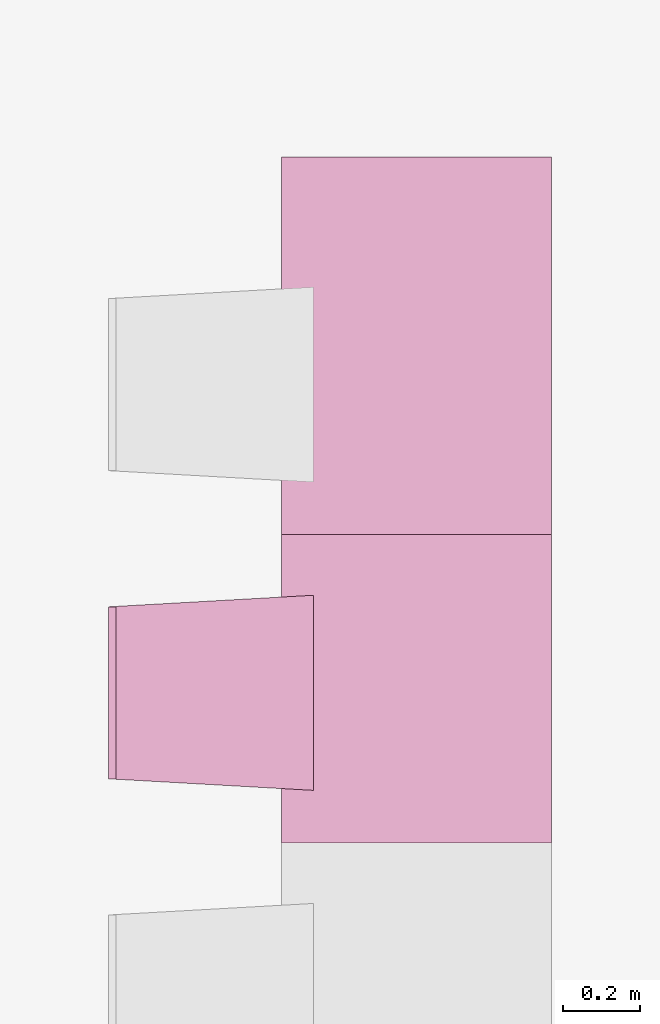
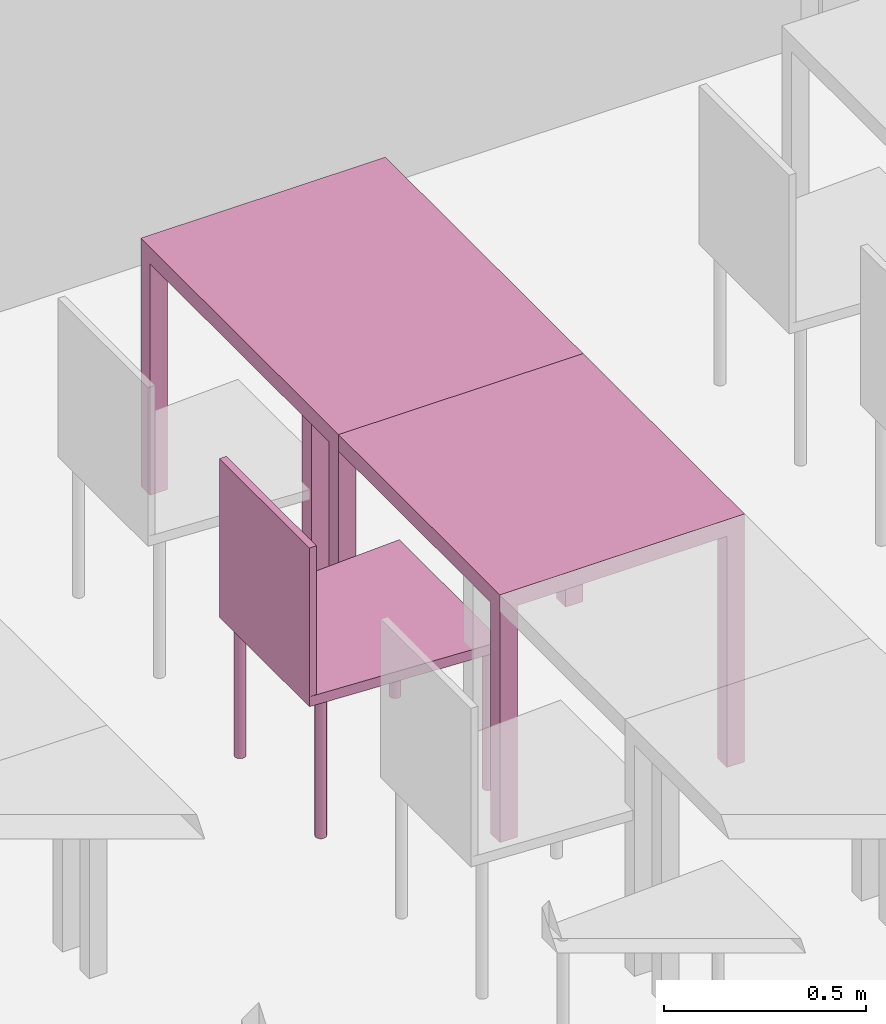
"""IFC4 building model written with IfcOpenShell, lengths in metres."""

from ifc_helpers import new_model, entity, si_unit, converted_unit, derived_unit, frame, origin, place, context, subcontext, project, spatial, faceted_brep, element, save


model = new_model("IFC4")

# Units and contexts
model_context = context("Model", 3, precision=1e-05, world=origin())
body_context = subcontext(model_context, "Body", "Model", "MODEL_VIEW")
ifc_project = project(units=[si_unit("LENGTHUNIT", "METRE"), si_unit("AREAUNIT", "SQUARE_METRE"), si_unit("VOLUMEUNIT", "CUBIC_METRE"), si_unit("MASSUNIT", "GRAM", prefix="KILO"), converted_unit("PLANEANGLEUNIT", "DEGREE", entity("IfcPlaneAngleMeasure", 0.0174532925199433), si_unit("PLANEANGLEUNIT", "RADIAN"), dimensions=[0, 0, 0, 0, 0, 0, 0]), derived_unit("THERMALTRANSMITTANCEUNIT", [(si_unit("POWERUNIT", "WATT"), 1), (si_unit("THERMODYNAMICTEMPERATUREUNIT", "KELVIN"), -1), (si_unit("LENGTHUNIT", "METRE"), -2)]), derived_unit("VOLUMETRICFLOWRATEUNIT", [(si_unit("LENGTHUNIT", "METRE"), 3), (converted_unit("TIMEUNIT", "hour", entity("IfcTimeMeasure", 3600.0), si_unit("TIMEUNIT", "SECOND"), dimensions=[0, 0, 1, 0, 0, 0, 0]), -1), (si_unit("LENGTHUNIT", "METRE"), -1)])], contexts=[model_context])

# Building, storeys
building_placement = place(None, origin())
building = spatial("IfcBuilding", under=ifc_project, at=building_placement, Name="HABITATGE PLURIFAMILIAR", CompositionType="ELEMENT")
storey_1_placement = place(building_placement, frame((0.0, 0.0, 3.35)))
storey_1 = spatial("IfcBuildingStorey", under=building, at=storey_1_placement, Name="PLANTA  ALTELL", CompositionType="ELEMENT", Elevation=3.35)
storey_2_placement = place(storey_1_placement, origin())
storey_2 = spatial("IfcBuildingStorey", under=storey_1, at=storey_2_placement, Name="NOU", CompositionType="PARTIAL")

# Furniture
furniture_1_placement = place(storey_2_placement, frame((412.336020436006, 15.6434480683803, 0.0)))
element("IfcFurniture", 1, at=furniture_1_placement, inside=storey_2, Name="Taula 80X70_PA", context=body_context, shape_type="Brep", body=[
    faceted_brep([(0.0, 0.0464285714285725, 0.0), (0.0, 0.0, 0.0), (0.0500000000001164, 0.0, 0.0), (0.0500000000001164, 0.0464285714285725, 0.0), (0.0500000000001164, 0.0464285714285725, 0.7), (0.0500000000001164, 0.0, 0.7), (0.0, 0.0, 0.7), (0.0, 0.0464285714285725, 0.7)], [[[0, 1, 2, 3]], [[4, 5, 6, 7]], [[3, 4, 7, 0]], [[2, 5, 4, 3]], [[1, 6, 5, 2]], [[0, 7, 6, 1]]], orient=[[False], [False], [False], [False], [False], [False]]),
    faceted_brep([(0.0, 0.98, 0.7), (0.0, 0.0, 0.7), (0.700069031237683, 0.0, 0.7), (0.700069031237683, 0.98, 0.7), (0.700069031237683, 0.98, 0.75), (0.700069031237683, 0.0, 0.75), (0.0, 0.0, 0.75), (0.0, 0.98, 0.75)], [[[0, 1, 2, 3]], [[4, 5, 6, 7]], [[3, 4, 7, 0]], [[2, 5, 4, 3]], [[1, 6, 5, 2]], [[0, 7, 6, 1]]], orient=[[False], [False], [False], [False], [False], [False]]),
    faceted_brep([(0.0, 0.98, 0.0), (0.0, 0.933571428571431, 0.0), (0.05, 0.933571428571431, 0.0), (0.05, 0.98, 0.0), (0.05, 0.98, 0.7), (0.05, 0.933571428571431, 0.7), (0.0, 0.933571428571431, 0.7), (0.0, 0.98, 0.7)], [[[0, 1, 2, 3]], [[4, 5, 6, 7]], [[3, 4, 7, 0]], [[2, 5, 4, 3]], [[1, 6, 5, 2]], [[0, 7, 6, 1]]], orient=[[False], [False], [False], [False], [False], [False]]),
    faceted_brep([(0.650069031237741, 0.98, 0.0), (0.650069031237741, 0.933571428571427, 0.0), (0.700069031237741, 0.933571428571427, 0.0), (0.700069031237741, 0.98, 0.0), (0.700069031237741, 0.98, 0.7), (0.700069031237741, 0.933571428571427, 0.7), (0.650069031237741, 0.933571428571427, 0.7), (0.650069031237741, 0.98, 0.7)], [[[0, 1, 2, 3]], [[4, 5, 6, 7]], [[3, 4, 7, 0]], [[2, 5, 4, 3]], [[1, 6, 5, 2]], [[0, 7, 6, 1]]], orient=[[False], [False], [False], [False], [False], [False]]),
    faceted_brep([(0.650069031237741, 0.0464285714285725, 0.0), (0.650069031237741, 0.0, 0.0), (0.700069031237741, 0.0, 0.0), (0.700069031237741, 0.0464285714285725, 0.0), (0.700069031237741, 0.0464285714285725, 0.7), (0.700069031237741, 0.0, 0.7), (0.650069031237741, 0.0, 0.7), (0.650069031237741, 0.0464285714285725, 0.7)], [[[0, 1, 2, 3]], [[4, 5, 6, 7]], [[3, 4, 7, 0]], [[2, 5, 4, 3]], [[1, 6, 5, 2]], [[0, 7, 6, 1]]], orient=[[False], [False], [False], [False], [False], [False]]),
])
furniture_2_placement = place(storey_2_placement, frame((412.336020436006, 14.8434480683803, 0.0)))
element("IfcFurniture", 2, at=furniture_2_placement, inside=storey_2, Name="Taula 80X70_PA", context=body_context, shape_type="Brep", body=[
    faceted_brep([(0.0, 0.0464285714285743, 0.0), (0.0, 0.0, 0.0), (0.0500000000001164, 0.0, 0.0), (0.0500000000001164, 0.0464285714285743, 0.0), (0.0500000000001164, 0.0464285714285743, 0.7), (0.0500000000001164, 0.0, 0.7), (0.0, 0.0, 0.7), (0.0, 0.0464285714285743, 0.7)], [[[0, 1, 2, 3]], [[4, 5, 6, 7]], [[3, 4, 7, 0]], [[2, 5, 4, 3]], [[1, 6, 5, 2]], [[0, 7, 6, 1]]], orient=[[False], [False], [False], [False], [False], [False]]),
    faceted_brep([(0.0, 0.98, 0.7), (0.0, 0.0, 0.7), (0.700069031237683, 0.0, 0.7), (0.700069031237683, 0.98, 0.7), (0.700069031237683, 0.98, 0.75), (0.700069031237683, 0.0, 0.75), (0.0, 0.0, 0.75), (0.0, 0.98, 0.75)], [[[0, 1, 2, 3]], [[4, 5, 6, 7]], [[3, 4, 7, 0]], [[2, 5, 4, 3]], [[1, 6, 5, 2]], [[0, 7, 6, 1]]], orient=[[False], [False], [False], [False], [False], [False]]),
    faceted_brep([(0.0, 0.980000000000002, 0.0), (0.0, 0.933571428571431, 0.0), (0.05, 0.933571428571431, 0.0), (0.05, 0.980000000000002, 0.0), (0.05, 0.980000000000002, 0.7), (0.05, 0.933571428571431, 0.7), (0.0, 0.933571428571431, 0.7), (0.0, 0.980000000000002, 0.7)], [[[0, 1, 2, 3]], [[4, 5, 6, 7]], [[3, 4, 7, 0]], [[2, 5, 4, 3]], [[1, 6, 5, 2]], [[0, 7, 6, 1]]], orient=[[False], [False], [False], [False], [False], [False]]),
    faceted_brep([(0.650069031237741, 0.98, 0.0), (0.650069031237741, 0.933571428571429, 0.0), (0.700069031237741, 0.933571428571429, 0.0), (0.700069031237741, 0.98, 0.0), (0.700069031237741, 0.98, 0.7), (0.700069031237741, 0.933571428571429, 0.7), (0.650069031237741, 0.933571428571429, 0.7), (0.650069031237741, 0.98, 0.7)], [[[0, 1, 2, 3]], [[4, 5, 6, 7]], [[3, 4, 7, 0]], [[2, 5, 4, 3]], [[1, 6, 5, 2]], [[0, 7, 6, 1]]], orient=[[False], [False], [False], [False], [False], [False]]),
    faceted_brep([(0.650069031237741, 0.0464285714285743, 0.0), (0.650069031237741, 0.0, 0.0), (0.700069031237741, 0.0, 0.0), (0.700069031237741, 0.0464285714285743, 0.0), (0.700069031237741, 0.0464285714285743, 0.7), (0.700069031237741, 0.0, 0.7), (0.650069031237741, 0.0, 0.7), (0.650069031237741, 0.0464285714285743, 0.7)], [[[0, 1, 2, 3]], [[4, 5, 6, 7]], [[3, 4, 7, 0]], [[2, 5, 4, 3]], [[1, 6, 5, 2]], [[0, 7, 6, 1]]], orient=[[False], [False], [False], [False], [False], [False]]),
])
furniture_3_placement = place(storey_2_placement, frame((411.886879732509, 14.9796818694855, 0.0499839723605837)))
element("IfcFurniture", 3, at=furniture_3_placement, inside=storey_2, Name="Cadira confident_PA", context=body_context, shape_type="Brep", body=[
    faceted_brep([(0.507575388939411, 0.0391636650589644, 0.0), (0.504980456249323, 0.0389479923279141, 0.0), (0.502462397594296, 0.0382849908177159, 0.0), (0.500097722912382, 0.0371948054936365, 0.0), (0.497958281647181, 0.0357105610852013, 0.0), (0.49610907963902, 0.0338773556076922, 0.0), (0.494606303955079, 0.0317508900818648, 0.0), (0.493495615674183, 0.0293957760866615, 0.0), (0.492810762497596, 0.0268835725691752, 0.0), (0.492572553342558, 0.0242906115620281, 0.0), (0.492788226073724, 0.0216956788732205, 0.0), (0.49345122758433, 0.019177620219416, 0.0), (0.494541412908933, 0.0168129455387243, 0.0), (0.496025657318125, 0.0146735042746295, 0.0), (0.497858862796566, 0.0128243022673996, 0.0), (0.499985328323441, 0.0113215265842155, 0.0), (0.502340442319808, 0.0102108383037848, 0.0), (0.504852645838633, 0.00952598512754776, 0.0), (0.507445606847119, 0.00928777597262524, 0.0), (0.510040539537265, 0.00950344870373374, 0.0), (0.512558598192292, 0.010166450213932, 0.0), (0.514923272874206, 0.0112566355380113, 0.0), (0.517062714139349, 0.0127408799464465, 0.0), (0.51891191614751, 0.0145740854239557, 0.0), (0.520414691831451, 0.0167005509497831, 0.0), (0.521525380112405, 0.0190556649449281, 0.0), (0.522210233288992, 0.0215678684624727, 0.0), (0.522448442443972, 0.024160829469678, 0.0), (0.522232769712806, 0.0267557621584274, 0.0), (0.5215697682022, 0.0292738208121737, 0.0), (0.520479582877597, 0.0316384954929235, 0.0), (0.518995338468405, 0.0337779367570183, 0.0), (0.517162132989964, 0.0356271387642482, 0.0), (0.515035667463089, 0.0371299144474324, 0.0), (0.512680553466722, 0.038240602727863, 0.0), (0.510168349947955, 0.0389254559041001, 0.0), (0.507575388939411, 0.0391636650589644, 0.448281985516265), (0.510168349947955, 0.0389254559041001, 0.448281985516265), (0.512680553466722, 0.038240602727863, 0.448281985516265), (0.515035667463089, 0.0371299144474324, 0.448281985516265), (0.517162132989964, 0.0356271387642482, 0.448281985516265), (0.518995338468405, 0.0337779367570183, 0.448281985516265), (0.520479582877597, 0.0316384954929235, 0.448281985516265), (0.5215697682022, 0.0292738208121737, 0.448281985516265), (0.522232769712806, 0.0267557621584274, 0.448281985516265), (0.522448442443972, 0.024160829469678, 0.448281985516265), (0.522210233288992, 0.0215678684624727, 0.448281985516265), (0.521525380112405, 0.0190556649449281, 0.448281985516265), (0.520414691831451, 0.0167005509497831, 0.448281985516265), (0.51891191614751, 0.0145740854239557, 0.448281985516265), (0.517062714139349, 0.0127408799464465, 0.448281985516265), (0.514923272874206, 0.0112566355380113, 0.448281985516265), (0.512558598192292, 0.010166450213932, 0.448281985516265), (0.510040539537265, 0.00950344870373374, 0.448281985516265), (0.507445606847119, 0.00928777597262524, 0.448281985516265), (0.504852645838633, 0.00952598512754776, 0.448281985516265), (0.502340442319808, 0.0102108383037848, 0.448281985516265), (0.499985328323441, 0.0113215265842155, 0.448281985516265), (0.497858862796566, 0.0128243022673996, 0.448281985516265), (0.496025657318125, 0.0146735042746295, 0.448281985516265), (0.494541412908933, 0.0168129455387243, 0.448281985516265), (0.49345122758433, 0.019177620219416, 0.448281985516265), (0.492788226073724, 0.0216956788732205, 0.448281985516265), (0.492572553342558, 0.0242906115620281, 0.448281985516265), (0.492810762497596, 0.0268835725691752, 0.448281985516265), (0.493495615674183, 0.0293957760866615, 0.448281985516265), (0.494606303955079, 0.0317508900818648, 0.448281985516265), (0.49610907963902, 0.0338773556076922, 0.448281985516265), (0.497958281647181, 0.0357105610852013, 0.448281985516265), (0.500097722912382, 0.0371948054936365, 0.448281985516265), (0.502462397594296, 0.0382849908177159, 0.448281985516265), (0.504980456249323, 0.0389479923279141, 0.448281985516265)], [[[0, 1, 2, 3, 4, 5, 6, 7, 8, 9, 10, 11, 12, 13, 14, 15, 16, 17, 18, 19, 20, 21, 22, 23, 24, 25, 26, 27, 28, 29, 30, 31, 32, 33, 34, 35]], [[36, 37, 38, 39, 40, 41, 42, 43, 44, 45, 46, 47, 48, 49, 50, 51, 52, 53, 54, 55, 56, 57, 58, 59, 60, 61, 62, 63, 64, 65, 66, 67, 68, 69, 70, 71]], [[1, 0, 36, 71]], [[2, 1, 71, 70]], [[3, 2, 70, 69]], [[4, 3, 69, 68]], [[5, 4, 68, 67]], [[6, 5, 67, 66]], [[7, 6, 66, 65]], [[8, 7, 65, 64]], [[9, 8, 64, 63]], [[10, 9, 63, 62]], [[11, 10, 62, 61]], [[12, 11, 61, 60]], [[13, 12, 60, 59]], [[14, 13, 59, 58]], [[15, 14, 58, 57]], [[16, 15, 57, 56]], [[17, 16, 56, 55]], [[18, 17, 55, 54]], [[19, 18, 54, 53]], [[20, 19, 53, 52]], [[21, 20, 52, 51]], [[22, 21, 51, 50]], [[23, 22, 50, 49]], [[24, 23, 49, 48]], [[25, 24, 48, 47]], [[26, 25, 47, 46]], [[27, 26, 46, 45]], [[28, 27, 45, 44]], [[29, 28, 44, 43]], [[30, 29, 43, 42]], [[31, 30, 42, 41]], [[32, 31, 41, 40]], [[33, 32, 40, 39]], [[34, 33, 39, 38]], [[35, 34, 38, 37]], [[0, 35, 37, 36]]], orient=[[False], [False], [False], [False], [False], [False], [False], [False], [False], [False], [False], [False], [False], [False], [False], [False], [False], [False], [False], [False], [False], [False], [False], [False], [False], [False], [False], [False], [False], [False], [False], [False], [False], [False], [False], [False], [False], [False]]),
    faceted_brep([(0.0451683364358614, 0.0668016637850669, 0.0), (0.042573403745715, 0.0665859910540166, 0.0), (0.0400553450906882, 0.065922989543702, 0.0), (0.0376906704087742, 0.0648328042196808, 0.0), (0.0355512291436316, 0.0633485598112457, 0.0), (0.0337020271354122, 0.0615153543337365, 0.0), (0.0321992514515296, 0.0593888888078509, 0.0), (0.0310885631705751, 0.057033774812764, 0.0), (0.0304037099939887, 0.0545215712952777, 0.0), (0.0301655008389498, 0.0519286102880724, 0.0), (0.0303811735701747, 0.0493336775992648, 0.0), (0.0310441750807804, 0.0468156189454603, 0.0), (0.0321343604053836, 0.0444509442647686, 0.0), (0.0336186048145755, 0.0423115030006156, 0.0), (0.035451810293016, 0.0404623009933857, 0.0), (0.0375782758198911, 0.0389595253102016, 0.0), (0.0399333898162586, 0.0378488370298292, 0.0), (0.0424455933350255, 0.0371639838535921, 0.0), (0.0450385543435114, 0.0369257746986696, 0.0), (0.0476334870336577, 0.0371414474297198, 0.0), (0.0501515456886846, 0.0378044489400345, 0.0), (0.0525162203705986, 0.0388946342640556, 0.0), (0.0546556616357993, 0.0403788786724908, 0.0), (0.0565048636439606, 0.0422120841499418, 0.0), (0.0580076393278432, 0.0443385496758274, 0.0), (0.0591183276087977, 0.0466936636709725, 0.0), (0.059803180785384, 0.0492058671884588, 0.0), (0.060041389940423, 0.0517988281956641, 0.0), (0.059825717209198, 0.0543937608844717, 0.0), (0.0591627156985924, 0.0569118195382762, 0.0), (0.0580725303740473, 0.0592764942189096, 0.0), (0.0565882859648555, 0.0614159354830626, 0.0), (0.054755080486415, 0.0632651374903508, 0.0), (0.0526286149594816, 0.0647679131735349, 0.0), (0.0502735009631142, 0.0658786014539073, 0.0), (0.0477612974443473, 0.0665634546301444, 0.0), (0.0451683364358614, 0.0668016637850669, 0.448281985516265), (0.0477612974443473, 0.0665634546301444, 0.448281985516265), (0.0502735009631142, 0.0658786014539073, 0.448281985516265), (0.0526286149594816, 0.0647679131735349, 0.448281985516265), (0.054755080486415, 0.0632651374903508, 0.448281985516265), (0.0565882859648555, 0.0614159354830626, 0.448281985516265), (0.0580725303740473, 0.0592764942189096, 0.448281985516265), (0.0591627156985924, 0.0569118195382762, 0.448281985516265), (0.059825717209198, 0.0543937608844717, 0.448281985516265), (0.060041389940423, 0.0517988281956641, 0.448281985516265), (0.059803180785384, 0.0492058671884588, 0.448281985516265), (0.0591183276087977, 0.0466936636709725, 0.448281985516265), (0.0580076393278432, 0.0443385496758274, 0.448281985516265), (0.0565048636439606, 0.0422120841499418, 0.448281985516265), (0.0546556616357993, 0.0403788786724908, 0.448281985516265), (0.0525162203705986, 0.0388946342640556, 0.448281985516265), (0.0501515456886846, 0.0378044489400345, 0.448281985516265), (0.0476334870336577, 0.0371414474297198, 0.448281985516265), (0.0450385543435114, 0.0369257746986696, 0.448281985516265), (0.0424455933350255, 0.0371639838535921, 0.448281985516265), (0.0399333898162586, 0.0378488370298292, 0.448281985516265), (0.0375782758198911, 0.0389595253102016, 0.448281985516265), (0.035451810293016, 0.0404623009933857, 0.448281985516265), (0.0336186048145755, 0.0423115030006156, 0.448281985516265), (0.0321343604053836, 0.0444509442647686, 0.448281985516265), (0.0310441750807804, 0.0468156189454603, 0.448281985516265), (0.0303811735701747, 0.0493336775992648, 0.448281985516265), (0.0301655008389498, 0.0519286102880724, 0.448281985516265), (0.0304037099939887, 0.0545215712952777, 0.448281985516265), (0.0310885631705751, 0.057033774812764, 0.448281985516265), (0.0321992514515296, 0.0593888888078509, 0.448281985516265), (0.0337020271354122, 0.0615153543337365, 0.448281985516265), (0.0355512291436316, 0.0633485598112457, 0.448281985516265), (0.0376906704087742, 0.0648328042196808, 0.448281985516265), (0.0400553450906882, 0.065922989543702, 0.448281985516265), (0.042573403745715, 0.0665859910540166, 0.448281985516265)], [[[0, 1, 2, 3, 4, 5, 6, 7, 8, 9, 10, 11, 12, 13, 14, 15, 16, 17, 18, 19, 20, 21, 22, 23, 24, 25, 26, 27, 28, 29, 30, 31, 32, 33, 34, 35]], [[36, 37, 38, 39, 40, 41, 42, 43, 44, 45, 46, 47, 48, 49, 50, 51, 52, 53, 54, 55, 56, 57, 58, 59, 60, 61, 62, 63, 64, 65, 66, 67, 68, 69, 70, 71]], [[1, 0, 36, 71]], [[2, 1, 71, 70]], [[3, 2, 70, 69]], [[4, 3, 69, 68]], [[5, 4, 68, 67]], [[6, 5, 67, 66]], [[7, 6, 66, 65]], [[8, 7, 65, 64]], [[9, 8, 64, 63]], [[10, 9, 63, 62]], [[11, 10, 62, 61]], [[12, 11, 61, 60]], [[13, 12, 60, 59]], [[14, 13, 59, 58]], [[15, 14, 58, 57]], [[16, 15, 57, 56]], [[17, 16, 56, 55]], [[18, 17, 55, 54]], [[19, 18, 54, 53]], [[20, 19, 53, 52]], [[21, 20, 52, 51]], [[22, 21, 51, 50]], [[23, 22, 50, 49]], [[24, 23, 49, 48]], [[25, 24, 48, 47]], [[26, 25, 47, 46]], [[27, 26, 46, 45]], [[28, 27, 45, 44]], [[29, 28, 44, 43]], [[30, 29, 43, 42]], [[31, 30, 42, 41]], [[32, 31, 41, 40]], [[33, 32, 40, 39]], [[34, 33, 39, 38]], [[35, 34, 38, 37]], [[0, 35, 37, 36]]], orient=[[False], [False], [False], [False], [False], [False], [False], [False], [False], [False], [False], [False], [False], [False], [False], [False], [False], [False], [False], [False], [False], [False], [False], [False], [False], [False], [False], [False], [False], [False], [False], [False], [False], [False], [False], [False], [False], [False]]),
    faceted_brep([(0.507575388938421, 0.499163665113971, 0.0), (0.504980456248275, 0.49894799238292, 0.0), (0.502462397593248, 0.498284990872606, 0.0), (0.500097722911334, 0.497194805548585, 0.0), (0.497958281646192, 0.495710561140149, 0.0), (0.49610907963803, 0.493877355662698, 0.0), (0.49460630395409, 0.491750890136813, 0.0), (0.493495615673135, 0.489395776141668, 0.0), (0.492810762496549, 0.486883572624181, 0.0), (0.492572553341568, 0.484290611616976, 0.0), (0.492788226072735, 0.481695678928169, 0.0), (0.49345122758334, 0.479177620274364, 0.0), (0.494541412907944, 0.476812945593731, 0.0), (0.496025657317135, 0.474673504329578, 0.0), (0.497858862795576, 0.472824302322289, 0.0), (0.499985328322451, 0.471321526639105, 0.0), (0.502340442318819, 0.470210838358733, 0.0), (0.504852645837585, 0.469525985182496, 0.0), (0.507445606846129, 0.469287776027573, 0.0), (0.510040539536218, 0.469503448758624, 0.0), (0.512558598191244, 0.470166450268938, 0.0), (0.514923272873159, 0.471256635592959, 0.0), (0.517062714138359, 0.472740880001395, 0.0), (0.518911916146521, 0.474574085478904, 0.0), (0.520414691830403, 0.476700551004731, 0.0), (0.521525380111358, 0.479055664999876, 0.0), (0.522210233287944, 0.481567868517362, 0.0), (0.522448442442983, 0.484160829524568, 0.0), (0.522232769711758, 0.486755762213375, 0.0), (0.521569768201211, 0.48927382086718, 0.0), (0.520479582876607, 0.491638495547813, 0.0), (0.518995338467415, 0.493777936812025, 0.0), (0.517162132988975, 0.495627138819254, 0.0), (0.515035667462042, 0.497129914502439, 0.0), (0.512680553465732, 0.498240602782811, 0.0), (0.510168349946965, 0.498925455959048, 0.0), (0.507575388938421, 0.499163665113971, 0.448281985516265), (0.510168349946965, 0.498925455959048, 0.448281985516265), (0.512680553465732, 0.498240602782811, 0.448281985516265), (0.515035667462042, 0.497129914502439, 0.448281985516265), (0.517162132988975, 0.495627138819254, 0.448281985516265), (0.518995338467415, 0.493777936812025, 0.448281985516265), (0.520479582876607, 0.491638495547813, 0.448281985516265), (0.521569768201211, 0.48927382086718, 0.448281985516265), (0.522232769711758, 0.486755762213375, 0.448281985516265), (0.522448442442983, 0.484160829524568, 0.448281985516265), (0.522210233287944, 0.481567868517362, 0.448281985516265), (0.521525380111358, 0.479055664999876, 0.448281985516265), (0.520414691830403, 0.476700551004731, 0.448281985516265), (0.518911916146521, 0.474574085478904, 0.448281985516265), (0.517062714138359, 0.472740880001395, 0.448281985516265), (0.514923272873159, 0.471256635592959, 0.448281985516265), (0.512558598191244, 0.470166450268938, 0.448281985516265), (0.510040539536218, 0.469503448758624, 0.448281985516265), (0.507445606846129, 0.469287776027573, 0.448281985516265), (0.504852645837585, 0.469525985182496, 0.448281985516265), (0.502340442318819, 0.470210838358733, 0.448281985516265), (0.499985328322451, 0.471321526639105, 0.448281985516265), (0.497858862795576, 0.472824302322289, 0.448281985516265), (0.496025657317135, 0.474673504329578, 0.448281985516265), (0.494541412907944, 0.476812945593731, 0.448281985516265), (0.49345122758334, 0.479177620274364, 0.448281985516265), (0.492788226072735, 0.481695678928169, 0.448281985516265), (0.492572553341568, 0.484290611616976, 0.448281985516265), (0.492810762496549, 0.486883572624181, 0.448281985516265), (0.493495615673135, 0.489395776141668, 0.448281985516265), (0.49460630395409, 0.491750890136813, 0.448281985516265), (0.49610907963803, 0.493877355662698, 0.448281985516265), (0.497958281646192, 0.495710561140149, 0.448281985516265), (0.500097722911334, 0.497194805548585, 0.448281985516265), (0.502462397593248, 0.498284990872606, 0.448281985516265), (0.504980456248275, 0.49894799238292, 0.448281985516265)], [[[0, 1, 2, 3, 4, 5, 6, 7, 8, 9, 10, 11, 12, 13, 14, 15, 16, 17, 18, 19, 20, 21, 22, 23, 24, 25, 26, 27, 28, 29, 30, 31, 32, 33, 34, 35]], [[36, 37, 38, 39, 40, 41, 42, 43, 44, 45, 46, 47, 48, 49, 50, 51, 52, 53, 54, 55, 56, 57, 58, 59, 60, 61, 62, 63, 64, 65, 66, 67, 68, 69, 70, 71]], [[1, 0, 36, 71]], [[2, 1, 71, 70]], [[3, 2, 70, 69]], [[4, 3, 69, 68]], [[5, 4, 68, 67]], [[6, 5, 67, 66]], [[7, 6, 66, 65]], [[8, 7, 65, 64]], [[9, 8, 64, 63]], [[10, 9, 63, 62]], [[11, 10, 62, 61]], [[12, 11, 61, 60]], [[13, 12, 60, 59]], [[14, 13, 59, 58]], [[15, 14, 58, 57]], [[16, 15, 57, 56]], [[17, 16, 56, 55]], [[18, 17, 55, 54]], [[19, 18, 54, 53]], [[20, 19, 53, 52]], [[21, 20, 52, 51]], [[22, 21, 51, 50]], [[23, 22, 50, 49]], [[24, 23, 49, 48]], [[25, 24, 48, 47]], [[26, 25, 47, 46]], [[27, 26, 46, 45]], [[28, 27, 45, 44]], [[29, 28, 44, 43]], [[30, 29, 43, 42]], [[31, 30, 42, 41]], [[32, 31, 41, 40]], [[33, 32, 40, 39]], [[34, 33, 39, 38]], [[35, 34, 38, 37]], [[0, 35, 37, 36]]], orient=[[False], [False], [False], [False], [False], [False], [False], [False], [False], [False], [False], [False], [False], [False], [False], [False], [False], [False], [False], [False], [False], [False], [False], [False], [False], [False], [False], [False], [False], [False], [False], [False], [False], [False], [False], [False], [False], [False]]),
    faceted_brep([(0.0451683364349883, 0.466801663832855, 0.0), (0.0425734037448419, 0.466585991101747, 0.0), (0.0400553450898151, 0.46592298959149, 0.0), (0.0376906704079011, 0.464832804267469, 0.0), (0.0355512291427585, 0.463348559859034, 0.0), (0.0337020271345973, 0.461515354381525, 0.0), (0.0321992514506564, 0.459388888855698, 0.0), (0.031088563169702, 0.457033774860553, 0.0), (0.0304037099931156, 0.454521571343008, 0.0), (0.0301655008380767, 0.451928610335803, 0.0), (0.0303811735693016, 0.449333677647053, 0.0), (0.0310441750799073, 0.446815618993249, 0.0), (0.0321343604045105, 0.444450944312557, 0.0), (0.0336186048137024, 0.442311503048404, 0.0), (0.0354518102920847, 0.440462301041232, 0.0), (0.037578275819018, 0.43895952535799, 0.0), (0.0399333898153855, 0.437848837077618, 0.0), (0.0424455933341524, 0.437163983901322, 0.0), (0.0450385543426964, 0.436925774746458, 0.0), (0.0476334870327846, 0.437141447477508, 0.0), (0.0501515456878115, 0.437804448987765, 0.0), (0.0525162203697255, 0.438894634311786, 0.0), (0.054655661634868, 0.440378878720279, 0.0), (0.0565048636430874, 0.44221208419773, 0.0), (0.0580076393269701, 0.444338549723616, 0.0), (0.0591183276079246, 0.446693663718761, 0.0), (0.0598031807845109, 0.449205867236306, 0.0), (0.0600413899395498, 0.451798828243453, 0.0), (0.0598257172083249, 0.45439376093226, 0.0), (0.0591627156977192, 0.456911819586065, 0.0), (0.058072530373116, 0.459276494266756, 0.0), (0.0565882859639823, 0.461415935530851, 0.0), (0.0547550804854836, 0.463265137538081, 0.0), (0.0526286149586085, 0.464767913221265, 0.0), (0.0502735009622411, 0.465878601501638, 0.0), (0.0477612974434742, 0.466563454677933, 0.0), (0.0451683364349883, 0.466801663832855, 0.448281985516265), (0.0477612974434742, 0.466563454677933, 0.448281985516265), (0.0502735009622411, 0.465878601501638, 0.448281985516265), (0.0526286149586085, 0.464767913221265, 0.448281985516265), (0.0547550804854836, 0.463265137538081, 0.448281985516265), (0.0565882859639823, 0.461415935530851, 0.448281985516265), (0.058072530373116, 0.459276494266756, 0.448281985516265), (0.0591627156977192, 0.456911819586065, 0.448281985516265), (0.0598257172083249, 0.45439376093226, 0.448281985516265), (0.0600413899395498, 0.451798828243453, 0.448281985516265), (0.0598031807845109, 0.449205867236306, 0.448281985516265), (0.0591183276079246, 0.446693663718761, 0.448281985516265), (0.0580076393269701, 0.444338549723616, 0.448281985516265), (0.0565048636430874, 0.44221208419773, 0.448281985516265), (0.054655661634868, 0.440378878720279, 0.448281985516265), (0.0525162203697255, 0.438894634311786, 0.448281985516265), (0.0501515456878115, 0.437804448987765, 0.448281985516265), (0.0476334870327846, 0.437141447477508, 0.448281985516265), (0.0450385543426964, 0.436925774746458, 0.448281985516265), (0.0424455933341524, 0.437163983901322, 0.448281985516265), (0.0399333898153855, 0.437848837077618, 0.448281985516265), (0.037578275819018, 0.43895952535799, 0.448281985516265), (0.0354518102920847, 0.440462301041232, 0.448281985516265), (0.0336186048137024, 0.442311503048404, 0.448281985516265), (0.0321343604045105, 0.444450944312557, 0.448281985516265), (0.0310441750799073, 0.446815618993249, 0.448281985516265), (0.0303811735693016, 0.449333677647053, 0.448281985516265), (0.0301655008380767, 0.451928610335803, 0.448281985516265), (0.0304037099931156, 0.454521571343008, 0.448281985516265), (0.031088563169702, 0.457033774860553, 0.448281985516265), (0.0321992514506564, 0.459388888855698, 0.448281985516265), (0.0337020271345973, 0.461515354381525, 0.448281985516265), (0.0355512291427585, 0.463348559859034, 0.448281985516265), (0.0376906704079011, 0.464832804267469, 0.448281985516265), (0.0400553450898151, 0.46592298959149, 0.448281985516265), (0.0425734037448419, 0.466585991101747, 0.448281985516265)], [[[0, 1, 2, 3, 4, 5, 6, 7, 8, 9, 10, 11, 12, 13, 14, 15, 16, 17, 18, 19, 20, 21, 22, 23, 24, 25, 26, 27, 28, 29, 30, 31, 32, 33, 34, 35]], [[36, 37, 38, 39, 40, 41, 42, 43, 44, 45, 46, 47, 48, 49, 50, 51, 52, 53, 54, 55, 56, 57, 58, 59, 60, 61, 62, 63, 64, 65, 66, 67, 68, 69, 70, 71]], [[1, 0, 36, 71]], [[2, 1, 71, 70]], [[3, 2, 70, 69]], [[4, 3, 69, 68]], [[5, 4, 68, 67]], [[6, 5, 67, 66]], [[7, 6, 66, 65]], [[8, 7, 65, 64]], [[9, 8, 64, 63]], [[10, 9, 63, 62]], [[11, 10, 62, 61]], [[12, 11, 61, 60]], [[13, 12, 60, 59]], [[14, 13, 59, 58]], [[15, 14, 58, 57]], [[16, 15, 57, 56]], [[17, 16, 56, 55]], [[18, 17, 55, 54]], [[19, 18, 54, 53]], [[20, 19, 53, 52]], [[21, 20, 52, 51]], [[22, 21, 51, 50]], [[23, 22, 50, 49]], [[24, 23, 49, 48]], [[25, 24, 48, 47]], [[26, 25, 47, 46]], [[27, 26, 46, 45]], [[28, 27, 45, 44]], [[29, 28, 44, 43]], [[30, 29, 43, 42]], [[31, 30, 42, 41]], [[32, 31, 41, 40]], [[33, 32, 40, 39]], [[34, 33, 39, 38]], [[35, 34, 38, 37]], [[0, 35, 37, 36]]], orient=[[False], [False], [False], [False], [False], [False], [False], [False], [False], [False], [False], [False], [False], [False], [False], [False], [False], [False], [False], [False], [False], [False], [False], [False], [False], [False], [False], [False], [False], [False], [False], [False], [False], [False], [False], [False], [False], [False]]),
    faceted_brep([(0.0, 0.476514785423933, 0.418281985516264), (0.0, 0.0300000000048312, 0.418281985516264), (0.532607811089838, 0.0, 0.418281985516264), (0.532607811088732, 0.506514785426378, 0.418281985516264), (0.532607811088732, 0.506514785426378, 0.448281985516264), (0.532607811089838, 0.0, 0.448281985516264), (0.0, 0.0300000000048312, 0.448281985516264), (0.0, 0.476514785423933, 0.448281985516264)], [[[0, 1, 2, 3]], [[4, 5, 6, 7]], [[3, 4, 7, 0]], [[2, 5, 4, 3]], [[1, 6, 5, 2]], [[0, 7, 6, 1]]], orient=[[False], [False], [False], [False], [False], [False]]),
    faceted_brep([(0.0200000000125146, 0.476514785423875, 0.448281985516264), (0.0, 0.476514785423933, 0.448281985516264), (0.0, 0.0300000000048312, 0.448281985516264), (0.0200000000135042, 0.0300000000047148, 0.448281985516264), (0.0200000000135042, 0.0300000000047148, 0.898281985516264), (0.0, 0.0300000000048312, 0.898281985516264), (0.0, 0.476514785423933, 0.898281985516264), (0.0200000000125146, 0.476514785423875, 0.898281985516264)], [[[0, 1, 2, 3]], [[4, 5, 6, 7]], [[3, 4, 7, 0]], [[2, 5, 4, 3]], [[1, 6, 5, 2]], [[0, 7, 6, 1]]], orient=[[False], [False], [False], [False], [False], [False]]),
])

save(model, "model.ifc")
